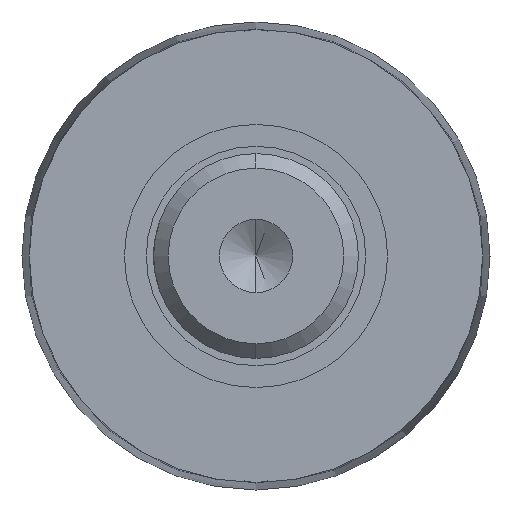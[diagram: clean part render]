
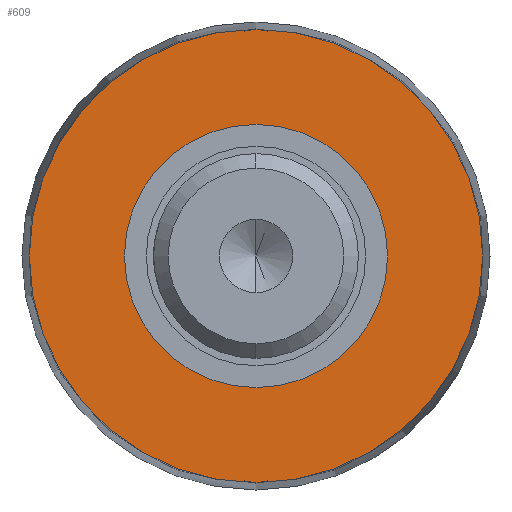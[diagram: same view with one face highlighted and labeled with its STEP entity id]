
A CAD part, left-side view. The second image highlights one B-rep face of the part: STEP entity #609.
In plain terms, the highlighted planar face has unit normal (-1, 0, 0).
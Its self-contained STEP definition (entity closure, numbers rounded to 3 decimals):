
#8 = DIRECTION ( 'NONE',  ( 0., 0., -1. ) ) ;
#115 = CARTESIAN_POINT ( 'NONE',  ( 98.5, 16., 0. ) ) ;
#120 = CIRCLE ( 'NONE', #1294, 15.5 ) ;
#168 = FACE_BOUND ( 'NONE', #1202, .T. ) ;
#195 = CARTESIAN_POINT ( 'NONE',  ( 98.5, 0., 0. ) ) ;
#204 = PLANE ( 'NONE',  #924 ) ;
#236 = EDGE_CURVE ( 'NONE', #279, #818, #1267, .T. ) ;
#244 = CARTESIAN_POINT ( 'NONE',  ( 98.5, 0., -15.5 ) ) ;
#279 = VERTEX_POINT ( 'NONE', #453 ) ;
#283 = ORIENTED_EDGE ( 'NONE', *, *, #644, .T. ) ;
#290 = AXIS2_PLACEMENT_3D ( 'NONE', #528, #615, #1173 ) ;
#345 = FACE_OUTER_BOUND ( 'NONE', #1123, .T. ) ;
#367 = VERTEX_POINT ( 'NONE', #549 ) ;
#401 = DIRECTION ( 'NONE',  ( 0., 0., 1. ) ) ;
#453 = CARTESIAN_POINT ( 'NONE',  ( 98.5, 0., 15.5 ) ) ;
#511 = VERTEX_POINT ( 'NONE', #865 ) ;
#528 = CARTESIAN_POINT ( 'NONE',  ( 98.5, 0., 0. ) ) ;
#549 = CARTESIAN_POINT ( 'NONE',  ( 98.5, 0., 9. ) ) ;
#605 = AXIS2_PLACEMENT_3D ( 'NONE', #821, #611, #1236 ) ;
#609 = ADVANCED_FACE ( 'NONE', ( #168, #345 ), #204, .T. ) ;
#611 = DIRECTION ( 'NONE',  ( 1., 0., 0. ) ) ;
#615 = DIRECTION ( 'NONE',  ( -1., 0., 0. ) ) ;
#644 = EDGE_CURVE ( 'NONE', #367, #511, #958, .T. ) ;
#688 = DIRECTION ( 'NONE',  ( -1., 0., 0. ) ) ;
#707 = EDGE_CURVE ( 'NONE', #818, #279, #120, .T. ) ;
#754 = ORIENTED_EDGE ( 'NONE', *, *, #707, .T. ) ;
#794 = DIRECTION ( 'NONE',  ( 0., 0., 1. ) ) ;
#813 = DIRECTION ( 'NONE',  ( -1., 0., 0. ) ) ;
#818 = VERTEX_POINT ( 'NONE', #244 ) ;
#821 = CARTESIAN_POINT ( 'NONE',  ( 98.5, 0., 0. ) ) ;
#834 = ORIENTED_EDGE ( 'NONE', *, *, #1059, .T. ) ;
#865 = CARTESIAN_POINT ( 'NONE',  ( 98.5, 0., -9. ) ) ;
#896 = CIRCLE ( 'NONE', #605, 9. ) ;
#908 = CARTESIAN_POINT ( 'NONE',  ( 98.5, 0., 0. ) ) ;
#924 = AXIS2_PLACEMENT_3D ( 'NONE', #115, #813, #401 ) ;
#958 = CIRCLE ( 'NONE', #1199, 9. ) ;
#1059 = EDGE_CURVE ( 'NONE', #511, #367, #896, .T. ) ;
#1123 = EDGE_LOOP ( 'NONE', ( #754, #1157 ) ) ;
#1157 = ORIENTED_EDGE ( 'NONE', *, *, #236, .T. ) ;
#1173 = DIRECTION ( 'NONE',  ( 0., 0., 1. ) ) ;
#1199 = AXIS2_PLACEMENT_3D ( 'NONE', #908, #1218, #8 ) ;
#1202 = EDGE_LOOP ( 'NONE', ( #834, #283 ) ) ;
#1218 = DIRECTION ( 'NONE',  ( 1., 0., 0. ) ) ;
#1236 = DIRECTION ( 'NONE',  ( 0., 0., -1. ) ) ;
#1267 = CIRCLE ( 'NONE', #290, 15.5 ) ;
#1294 = AXIS2_PLACEMENT_3D ( 'NONE', #195, #688, #794 ) ;
